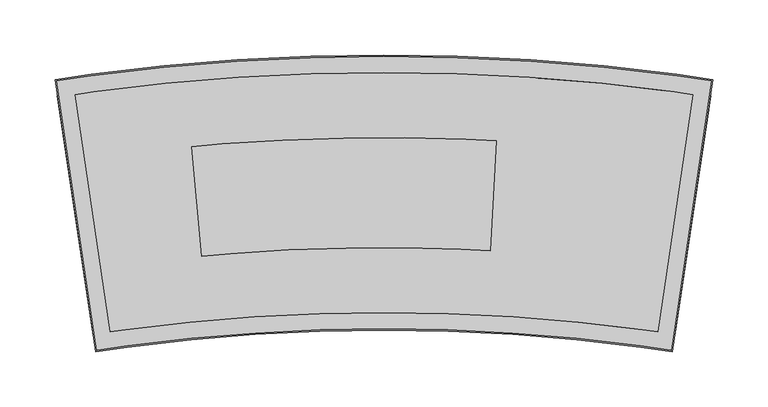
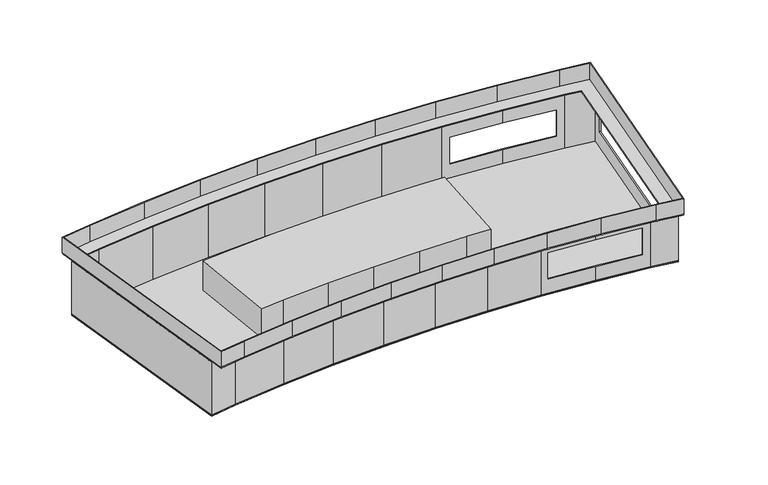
"""IFC4 building model written with IfcOpenShell, lengths in millimetres: proxy geometry, Techno_Конвектор встраиваемый_Usual_KVZ_R-250_85 : KVZ R 250-85_П."""

from ifc_helpers import new_model, si_unit, frame, origin, place, context, project, spatial, polyline, ellipse_curve, outline, extrude, faceted_brep, source, transform, mapped, element, save
from ifc_brep_helpers import plane_surface, cylinder_surface, advanced_brep


def mechanical_equipment_265fb7d5(model_context):
    return source(origin(), model_context, "Body", "SolidModel", [
        extrude(outline(polyline([(601.8314685, 47.3365652), (596.6039803, -52.5267081), (570.3832504, -51.1541459), (517.8849687, -49.9000193), (465.3722481, -50.137903), (412.8874831, -51.867605), (360.473046, -55.0877287), (334.322149, -57.4417016), (325.3568973, 42.1556089), (352.9228862, 44.6369613), (408.1736024, 48.0313342), (463.498452, 49.8546347), (518.85277, 50.1053909), (574.1918679, 48.7834003), (601.8314685, 47.3365652)])), frame((0.0, 0.0, -69.8), z_axis=(0.0, 0.0, 1.0), x_axis=(1.0, 0.0, 0.0)), (0.0, 0.0, 1.0), 35.0),
        extrude(outline(polyline([(796.714919, 88.1589808), (764.1504492, -129.8220168), (735.013227, -125.4691686), (676.4835836, -118.6882483), (617.7622982, -113.8394674), (558.9131357, -110.9280911), (500.0, -109.957281), (441.0868643, -110.9280911), (382.2377018, -113.8394674), (323.5164164, -118.6882483), (264.986773, -125.4691686), (235.8495508, -129.8220168), (203.285081, 88.1589808), (236.0143403, 93.0484481), (301.7595186, 100.6653204), (367.7199646, 106.111859), (433.8240524, 109.3821498), (500.0, 110.4726414), (566.1759476, 109.3821498), (632.2800354, 106.111859), (698.2404814, 100.6653204), (763.9856597, 93.0484481), (796.714919, 88.1589808)])), frame((0.0, 0.0, -85.0), z_axis=(0.0, 0.0, 1.0), x_axis=(1.0, 0.0, 0.0)), (0.0, 0.0, 1.0), 1.2),
        faceted_brep([(203.285081, 88.1589808, -20.5), (203.285081, 88.1589808, -85.0), (235.8495508, -129.8220168, -85.0), (235.8495508, -129.8220168, -20.5), (764.1504492, -129.8220168, -20.5), (764.1504492, -129.8220168, -85.0), (796.714919, 88.1589808, -85.0), (796.714919, 88.1589808, -20.5), (765.6575163, -119.733967, -33.0), (794.8532478, 75.6972722, -33.0), (794.8532478, 75.6972722, -65.0), (765.6575163, -119.733967, -65.0), (204.6492124, 87.1494534, -85.0), (204.6492124, 87.1494534, -20.5), (236.8590781, -128.4578854, -20.5), (236.8590781, -128.4578854, -85.0), (763.1409219, -128.4578854, -85.0), (763.1409219, -128.4578854, -20.5), (795.3507876, 87.1494534, -20.5), (795.3507876, 87.1494534, -85.0), (793.6664185, 75.8745742, -33.0), (764.470687, -119.556665, -33.0), (764.470687, -119.556665, -65.0), (793.6664185, 75.8745742, -65.0), (264.986773, -125.4691686, -85.0), (264.986773, -125.4691686, -20.5), (264.809471, -124.2823392, -20.5), (264.809471, -124.2823392, -85.0), (323.5164164, -118.6882483, -85.0), (323.5164164, -118.6882483, -20.5), (323.3783148, -117.4962215, -20.5), (323.3783148, -117.4962215, -85.0), (382.2377018, -113.8394674, -85.0), (382.2377018, -113.8394674, -20.5), (382.1389505, -112.6435375, -20.5), (382.1389505, -112.6435375, -85.0), (441.0868643, -110.9280911, -85.0), (441.0868643, -110.9280911, -20.5), (441.0275706, -109.7295569, -20.5), (441.0275706, -109.7295569, -85.0), (500.0, -109.957281, -85.0), (500.0, -109.957281, -20.5), (499.9802283, -108.7574439, -20.5), (499.9802283, -108.7574439, -85.0), (558.9131357, -110.9280911, -85.0), (558.9131357, -110.9280911, -20.5), (558.9329075, -109.728254, -20.5), (558.9329075, -109.728254, -85.0), (617.7622982, -113.8394674, -85.0), (617.7622982, -113.8394674, -20.5), (617.8215919, -112.6409332, -20.5), (617.8215919, -112.6409332, -85.0), (676.4835836, -118.6882483, -85.0), (676.4835836, -118.6882483, -67.0), (624.8688281, -114.4262735, -67.0), (624.8688281, -114.4262735, -35.0), (676.4835836, -118.6882483, -35.0), (676.4835836, -118.6882483, -20.5), (676.5823349, -117.4923185, -20.5), (676.5823349, -117.4923185, -35.0), (624.9526421, -113.2291102, -35.0), (624.9526421, -113.2291102, -67.0), (676.5823349, -117.4923185, -67.0), (676.5823349, -117.4923185, -85.0), (735.013227, -125.4691686, -85.0), (735.013227, -125.4691686, -20.5), (727.2128336, -124.5654582, -35.0), (727.2128336, -124.5654582, -67.0), (735.1513286, -124.2771418, -20.5), (735.1513286, -124.2771418, -85.0), (727.3653424, -123.3751006, -67.0), (727.3653424, -123.3751006, -35.0), (763.9856597, 93.0484481, -85.0), (763.9856597, 93.0484481, -20.5), (763.8083577, 91.8616187, -20.5), (763.8083577, 91.8616187, -85.0), (698.2404814, 100.6653204, -85.0), (698.2404814, 100.6653204, -67.0), (755.2236337, 94.0635679, -67.0), (755.2236337, 94.0635679, -35.0), (698.2404814, 100.6653204, -35.0), (698.2404814, 100.6653204, -20.5), (698.1023797, 99.4732936, -20.5), (698.1023797, 99.4732936, -35.0), (755.0711248, 92.8732103, -35.0), (755.0711248, 92.8732103, -67.0), (698.1023797, 99.4732936, -67.0), (698.1023797, 99.4732936, -85.0), (632.2800354, 106.111859, -85.0), (632.2800354, 106.111859, -20.5), (640.2626584, 105.4527115, -35.0), (640.2626584, 105.4527115, -67.0), (632.1812841, 104.9159292, -20.5), (632.1812841, 104.9159292, -85.0), (640.1788444, 104.2555483, -67.0), (640.1788444, 104.2555483, -35.0), (566.1759476, 109.3821498, -85.0), (566.1759476, 109.3821498, -20.5), (566.1166539, 108.1836156, -20.5), (566.1166539, 108.1836156, -85.0), (500.0, 110.4726414, -85.0), (500.0, 110.4726414, -20.5), (499.9802283, 109.2728043, -20.5), (499.9802283, 109.2728043, -85.0), (433.8240524, 109.3821498, -85.0), (433.8240524, 109.3821498, -20.5), (433.8438241, 108.1823127, -20.5), (433.8438241, 108.1823127, -85.0), (367.7199646, 106.111859, -85.0), (367.7199646, 106.111859, -20.5), (367.7792583, 104.9133248, -20.5), (367.7792583, 104.9133248, -85.0), (301.7595186, 100.6653204, -85.0), (301.7595186, 100.6653204, -20.5), (301.8582699, 99.4693905, -20.5), (301.8582699, 99.4693905, -85.0), (236.0143403, 93.0484481, -85.0), (236.0143403, 93.0484481, -20.5), (236.1524419, 91.8564213, -20.5), (236.1524419, 91.8564213, -85.0)], [[[0, 1, 2, 3]], [[4, 5, 6, 7], [8, 9, 10, 11]], [[12, 13, 14, 15]], [[16, 17, 18, 19], [20, 21, 22, 23]], [[3, 2, 24, 25]], [[15, 14, 26, 27]], [[25, 24, 28, 29]], [[27, 26, 30, 31]], [[29, 28, 32, 33]], [[31, 30, 34, 35]], [[33, 32, 36, 37]], [[35, 34, 38, 39]], [[37, 36, 40, 41]], [[39, 38, 42, 43]], [[41, 40, 44, 45]], [[43, 42, 46, 47]], [[45, 44, 48, 49]], [[47, 46, 50, 51]], [[49, 48, 52, 53, 54, 55, 56, 57]], [[51, 50, 58, 59, 60, 61, 62, 63]], [[52, 64, 65, 57, 56, 66, 67, 53]], [[58, 68, 69, 63, 62, 70, 71, 59]], [[5, 4, 65, 64]], [[17, 16, 69, 68]], [[7, 6, 72, 73]], [[19, 18, 74, 75]], [[73, 72, 76, 77, 78, 79, 80, 81]], [[75, 74, 82, 83, 84, 85, 86, 87]], [[76, 88, 89, 81, 80, 90, 91, 77]], [[82, 92, 93, 87, 86, 94, 95, 83]], [[89, 88, 96, 97]], [[93, 92, 98, 99]], [[97, 96, 100, 101]], [[99, 98, 102, 103]], [[101, 100, 104, 105]], [[103, 102, 106, 107]], [[105, 104, 108, 109]], [[107, 106, 110, 111]], [[109, 108, 112, 113]], [[111, 110, 114, 115]], [[113, 112, 116, 117]], [[115, 114, 118, 119]], [[1, 0, 117, 116]], [[13, 12, 119, 118]], [[0, 3, 25, 29, 33, 37, 41, 45, 49, 57, 65, 4, 7, 73, 81, 89, 97, 101, 105, 109, 113, 117], [14, 13, 118, 114, 110, 106, 102, 98, 92, 82, 74, 18, 17, 68, 58, 50, 46, 42, 38, 34, 30, 26]], [[2, 1, 116, 112, 108, 104, 100, 96, 88, 76, 72, 6, 5, 64, 52, 48, 44, 40, 36, 32, 28, 24], [12, 15, 27, 31, 35, 39, 43, 47, 51, 63, 69, 16, 19, 75, 87, 93, 99, 103, 107, 111, 115, 119]], [[20, 9, 8, 21]], [[21, 8, 11, 22]], [[22, 11, 10, 23]], [[9, 20, 23, 10]], [[66, 71, 70, 67]], [[84, 79, 78, 85]], [[67, 70, 62, 61, 54, 53]], [[85, 78, 77, 91, 94, 86]], [[71, 66, 56, 55, 60, 59]], [[79, 84, 83, 95, 90, 80]], [[54, 61, 60, 55]], [[94, 91, 90, 95]]]),
        advanced_brep(
        [(780.7132251, 89.3361782, -19.3), (780.7132251, 89.3361782, -20.5), (748.5033594, -126.2711606, -20.5), (748.5033594, -126.2711606, -19.3), (797.5375124, 101.7870158, 0.0), (797.5375124, 101.7870158, -19.3), (760.954197, -143.0954479, -19.3), (760.954197, -143.0954479, 0.0), (798.9016438, 102.7965432, -18.5), (798.9016438, 102.7965432, 0.0), (761.9637244, -144.4595793, 0.0), (761.9637244, -144.4595793, -18.5), (251.4966406, -126.2711606, -19.3), (251.4966406, -126.2711606, -20.5), (219.2867749, 89.3361782, -20.5), (219.2867749, 89.3361782, -19.3), (239.045803, -143.0954479, 0.0), (239.045803, -143.0954479, -19.3), (202.4624876, 101.7870158, -19.3), (202.4624876, 101.7870158, 0.0), (238.0362756, -144.4595793, -18.5), (238.0362756, -144.4595793, 0.0), (201.0983562, 102.7965432, 0.0), (201.0983562, 102.7965432, -18.5), (796.6280915, 101.1139976, -20.5), (760.2811788, -142.1860269, -20.5), (239.7188212, -142.1860269, -20.5), (203.3719085, 101.1139976, -20.5), (234.068823, 107.7220449, -18.5), (234.3317308, 105.7391264, -20.5), (236.1720849, 91.858697, -20.5), (236.1720849, 91.858697, -19.3), (234.2265677, 106.5322938, -19.3), (234.2265677, 106.5322938, 0.0), (234.068823, 107.7220449, 0.0), (300.2985291, 115.3950518, -18.5), (300.4959601, 113.4045476, -20.5), (301.8779772, 99.4710178, -20.5), (301.8779772, 99.4710178, -19.3), (300.4169877, 114.2007493, -19.3), (300.4169877, 114.2007493, 0.0), (300.2985291, 115.3950518, 0.0), (733.0677097, -140.1427654, -18.5), (733.3306175, -138.1598469, -20.5), (735.1709716, -124.2794175, -20.5), (735.1709716, -124.2794175, -19.3), (733.2254544, -138.9530143, -19.3), (733.2254544, -138.9530143, 0.0), (733.0677097, -140.1427654, 0.0), (675.0225941, -133.4179798, -18.5), (675.2200251, -131.4274755, -20.5), (676.6020422, -117.4939458, -20.5), (676.6020422, -117.4939458, -19.3), (675.1410527, -132.2236772, -19.3), (675.1410527, -132.2236772, 0.0), (675.0225941, -133.4179798, 0.0), (366.7450893, 120.8817303, -18.5), (366.8768293, 118.8858018, -20.5), (367.7990086, 104.9143019, -20.5), (367.7990086, 104.9143019, -19.3), (366.8241333, 119.6841732, -19.3), (366.8241333, 119.6841732, 0.0), (366.7450893, 120.8817303, 0.0), (616.7874229, -128.6093387, -18.5), (616.9191628, -126.6134101, -20.5), (617.8413421, -112.6419103, -20.5), (617.8413421, -112.6419103, -19.3), (616.8664669, -127.4117815, -19.3), (616.8664669, -127.4117815, 0.0), (616.7874229, -128.6093387, 0.0), (433.3363499, 124.1761224, -18.5), (433.4022557, 122.1769369, -20.5), (433.8635958, 108.1826385, -20.5), (433.8635958, 108.1826385, -19.3), (433.3758934, 122.9766111, -19.3), (433.3758934, 122.9766111, 0.0), (433.3363499, 124.1761224, 0.0), (500.0, 125.2746507, -18.5), (500.0, 123.2743792, -20.5), (500.0, 109.2724785, -20.5), (500.0, 109.2724785, -19.3), (500.0, 124.0744878, -19.3), (500.0, 124.0744878, 0.0), (500.0, 125.2746507, 0.0), (558.4254333, -125.7220638, -18.5), (558.491339, -123.7228783, -20.5), (558.9526792, -109.7285798, -20.5), (558.9526792, -109.7285798, -19.3), (558.4649767, -124.5225525, -19.3), (558.4649767, -124.5225525, 0.0), (558.4254333, -125.7220638, 0.0), (500.0, -124.7592903, -18.5), (500.0, -122.7590188, -20.5), (500.0, -108.7571181, -20.5), (500.0, -108.7571181, -19.3), (500.0, -123.5591274, -19.3), (500.0, -123.5591274, 0.0), (500.0, -124.7592903, 0.0), (566.6636501, 124.1761224, -18.5), (566.5977443, 122.1769369, -20.5), (566.1364042, 108.1826385, -20.5), (566.1364042, 108.1826385, -19.3), (566.6241066, 122.9766111, -19.3), (566.6241066, 122.9766111, 0.0), (566.6636501, 124.1761224, 0.0), (633.2549107, 120.8817303, -18.5), (633.1231707, 118.8858018, -20.5), (632.2009914, 104.9143019, -20.5), (632.2009914, 104.9143019, -19.3), (633.1758667, 119.6841732, -19.3), (633.1758667, 119.6841732, 0.0), (633.2549107, 120.8817303, 0.0), (699.7014709, 115.3950518, -18.5), (699.5040399, 113.4045476, -20.5), (698.1220228, 99.4710178, -20.5), (698.1220228, 99.4710178, -19.3), (699.5830123, 114.2007493, -19.3), (699.5830123, 114.2007493, 0.0), (699.7014709, 115.3950518, 0.0), (765.931177, 107.7220449, -18.5), (765.6682692, 105.7391264, -20.5), (763.8279151, 91.858697, -20.5), (763.8279151, 91.858697, -19.3), (765.7734323, 106.5322938, -19.3), (765.7734323, 106.5322938, 0.0), (765.931177, 107.7220449, 0.0), (441.5745667, -125.7220638, -18.5), (441.508661, -123.7228783, -20.5), (441.0473208, -109.7285798, -20.5), (441.0473208, -109.7285798, -19.3), (441.5350233, -124.5225525, -19.3), (441.5350233, -124.5225525, 0.0), (441.5745667, -125.7220638, 0.0), (383.2125771, -128.6093387, -18.5), (383.0808372, -126.6134101, -20.5), (382.1586579, -112.6419103, -20.5), (382.1586579, -112.6419103, -19.3), (383.1335331, -127.4117815, -19.3), (383.1335331, -127.4117815, 0.0), (383.2125771, -128.6093387, 0.0), (324.9774059, -133.4179798, -18.5), (324.7799749, -131.4274755, -20.5), (323.3979578, -117.4939458, -20.5), (323.3979578, -117.4939458, -19.3), (324.8589473, -132.2236772, -19.3), (324.8589473, -132.2236772, 0.0), (324.9774059, -133.4179798, 0.0), (266.9322903, -140.1427654, -18.5), (266.6693825, -138.1598469, -20.5), (264.8290284, -124.2794175, -20.5), (264.8290284, -124.2794175, -19.3), (266.7745456, -138.9530143, -19.3), (266.7745456, -138.9530143, 0.0), (266.9322903, -140.1427654, 0.0)],
        [
            (0, 1),
            (1, 2),
            (2, 3),
            (3, 0),
            (4, 5),
            (5, 6),
            (6, 7),
            (7, 4),
            (8, 9),
            (9, 10),
            (10, 11),
            (11, 8),
            (12, 13),
            (13, 14),
            (14, 15),
            (15, 12),
            (16, 17),
            (17, 18),
            (18, 19),
            (19, 16),
            (20, 21),
            (21, 22),
            (22, 23),
            (23, 20),
            (24, 8, ellipse_curve(frame((796.6280915, 101.1139976, -18.5), z_axis=(0.5948697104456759, -0.8038221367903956, 0.0), x_axis=(0.8038221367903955, 0.5948697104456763, 0.0)), 2.8284271, 2.0)),
            (11, 25, ellipse_curve(frame((760.2811788, -142.1860269, -18.5), z_axis=(0.8038221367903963, 0.5948697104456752, 0.0), x_axis=(-0.594869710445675, 0.8038221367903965, 0.0)), 2.8284271, 2.0)),
            (25, 24),
            (26, 20, ellipse_curve(frame((239.7188212, -142.1860269, -18.5), z_axis=(-0.8038221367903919, 0.5948697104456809, 0.0), x_axis=(-0.5948697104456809, -0.803822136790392, 0.0)), 2.8284271, 2.0)),
            (23, 27, ellipse_curve(frame((203.3719085, 101.1139976, -18.5), z_axis=(-0.5948697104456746, -0.8038221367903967, 0.0), x_axis=(0.8038221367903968, -0.5948697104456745, 0.0)), 2.8284271, 2.0)),
            (27, 26),
            (23, 28),
            (28, 29, ellipse_curve(frame((234.3317308, 105.7391264, -18.5), z_axis=(-0.9913246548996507, -0.13143602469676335, 0.0), x_axis=(0.1314360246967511, -0.9913246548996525, 0.0)), 2.0002715, 2.0)),
            (29, 27),
            (14, 30),
            (30, 31),
            (31, 15),
            (18, 32),
            (32, 33),
            (33, 19),
            (22, 34),
            (34, 28),
            (28, 35),
            (35, 36, ellipse_curve(frame((300.4959601, 113.4045476, -18.5), z_axis=(-0.9951170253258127, -0.09870210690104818, 0.0), x_axis=(0.09870210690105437, -0.9951170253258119, 0.0)), 2.0002715, 2.0)),
            (36, 29),
            (30, 37),
            (37, 38),
            (38, 31),
            (32, 39),
            (39, 40),
            (40, 33),
            (34, 41),
            (41, 35),
            (11, 42),
            (42, 43, ellipse_curve(frame((733.3306175, -138.1598469, -18.5), z_axis=(0.9913246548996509, -0.13143602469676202, 0.0), x_axis=(-0.13143602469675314, -0.9913246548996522, 0.0)), 2.0002715, 2.0)),
            (43, 25),
            (2, 44),
            (44, 45),
            (45, 3),
            (6, 46),
            (46, 47),
            (47, 7),
            (10, 48),
            (48, 42),
            (42, 49),
            (49, 50, ellipse_curve(frame((675.2200251, -131.4274755, -18.5), z_axis=(0.9951170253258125, -0.09870210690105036, 0.0), x_axis=(-0.09870210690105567, -0.9951170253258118, 0.0)), 2.0002715, 2.0)),
            (50, 43),
            (44, 51),
            (51, 52),
            (52, 45),
            (46, 53),
            (53, 54),
            (54, 47),
            (48, 55),
            (55, 49),
            (35, 56),
            (56, 57, ellipse_curve(frame((366.8768293, 118.8858018, -18.5), z_axis=(-0.9978288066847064, -0.06586100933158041, 0.0), x_axis=(0.06586100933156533, -0.9978288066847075, 0.0)), 2.0002715, 2.0)),
            (57, 36),
            (37, 58),
            (58, 59),
            (59, 38),
            (39, 60),
            (60, 61),
            (61, 40),
            (41, 62),
            (62, 56),
            (49, 63),
            (63, 64, ellipse_curve(frame((616.9191628, -126.6134101, -18.5), z_axis=(0.9978288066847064, -0.06586100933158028, 0.0), x_axis=(-0.06586100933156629, -0.9978288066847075, 0.0)), 2.0002715, 2.0)),
            (64, 50),
            (51, 65),
            (65, 66),
            (66, 52),
            (53, 67),
            (67, 68),
            (68, 54),
            (55, 69),
            (69, 63),
            (56, 70),
            (70, 71, ellipse_curve(frame((433.4022557, 122.1769369, -18.5), z_axis=(-0.9994570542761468, -0.03294839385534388, 0.0), x_axis=(0.03294839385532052, -0.999457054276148, 0.0)), 2.0002715, 2.0)),
            (71, 57),
            (58, 72),
            (72, 73),
            (73, 59),
            (60, 74),
            (74, 75),
            (75, 61),
            (62, 76),
            (76, 70),
            (70, 77),
            (77, 78, ellipse_curve(frame((500.0, 123.2743792, -18.5), z_axis=(-0.9999999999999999, 0.0, 0.0), x_axis=(0.0, -1.0, 0.0)), 2.0002715, 2.0)),
            (78, 71),
            (72, 79),
            (79, 80),
            (80, 73),
            (74, 81),
            (81, 82),
            (82, 75),
            (76, 83),
            (83, 77),
            (63, 84),
            (84, 85, ellipse_curve(frame((558.491339, -123.7228783, -18.5), z_axis=(0.9994570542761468, -0.032948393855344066, 0.0), x_axis=(-0.03294839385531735, -0.999457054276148, 0.0)), 2.0002715, 2.0)),
            (85, 64),
            (65, 86),
            (86, 87),
            (87, 66),
            (67, 88),
            (88, 89),
            (89, 68),
            (69, 90),
            (90, 84),
            (84, 91),
            (91, 92, ellipse_curve(frame((500.0, -122.7590188, -18.5), z_axis=(0.9999999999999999, 0.0, 0.0), x_axis=(0.0, -1.0, 0.0)), 2.0002715, 2.0)),
            (92, 85),
            (86, 93),
            (93, 94),
            (94, 87),
            (88, 95),
            (95, 96),
            (96, 89),
            (90, 97),
            (97, 91),
            (77, 98),
            (98, 99, ellipse_curve(frame((566.5977443, 122.1769369, -18.5), z_axis=(-0.9994570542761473, 0.03294839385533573, 0.0), x_axis=(-0.03294839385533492, -0.9994570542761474, 0.0)), 2.0002715, 2.0)),
            (99, 78),
            (79, 100),
            (100, 101),
            (101, 80),
            (81, 102),
            (102, 103),
            (103, 82),
            (83, 104),
            (104, 98),
            (98, 105),
            (105, 106, ellipse_curve(frame((633.1231707, 118.8858018, -18.5), z_axis=(-0.9978288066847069, 0.06586100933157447, 0.0), x_axis=(-0.06586100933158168, -0.9978288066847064, 0.0)), 2.0002715, 2.0)),
            (106, 99),
            (100, 107),
            (107, 108),
            (108, 101),
            (102, 109),
            (109, 110),
            (110, 103),
            (104, 111),
            (111, 105),
            (105, 112),
            (112, 113, ellipse_curve(frame((699.5040399, 113.4045476, -18.5), z_axis=(-0.9951170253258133, 0.09870210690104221, 0.0), x_axis=(-0.09870210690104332, -0.9951170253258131, 0.0)), 2.0002715, 2.0)),
            (113, 106),
            (107, 114),
            (114, 115),
            (115, 108),
            (109, 116),
            (116, 117),
            (117, 110),
            (111, 118),
            (118, 112),
            (112, 119),
            (119, 120, ellipse_curve(frame((765.6682692, 105.7391264, -18.5), z_axis=(-0.991324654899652, 0.13143602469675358, 0.0), x_axis=(-0.13143602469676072, -0.9913246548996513, 0.0)), 2.0002715, 2.0)),
            (120, 113),
            (114, 121),
            (121, 122),
            (122, 115),
            (116, 123),
            (123, 124),
            (124, 117),
            (118, 125),
            (125, 119),
            (119, 8),
            (24, 120),
            (121, 1),
            (0, 122),
            (123, 5),
            (4, 124),
            (125, 9),
            (91, 126),
            (126, 127, ellipse_curve(frame((441.508661, -123.7228783, -18.5), z_axis=(0.9994570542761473, 0.03294839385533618, 0.0), x_axis=(0.03294839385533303, -0.9994570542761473, 0.0)), 2.0002715, 2.0)),
            (127, 92),
            (93, 128),
            (128, 129),
            (129, 94),
            (95, 130),
            (130, 131),
            (131, 96),
            (97, 132),
            (132, 126),
            (126, 133),
            (133, 134, ellipse_curve(frame((383.0808372, -126.6134101, -18.5), z_axis=(0.9978288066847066, 0.06586100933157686, 0.0), x_axis=(0.06586100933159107, -0.9978288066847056, 0.0)), 2.0002715, 2.0)),
            (134, 127),
            (128, 135),
            (135, 136),
            (136, 129),
            (130, 137),
            (137, 138),
            (138, 131),
            (132, 139),
            (139, 133),
            (133, 140),
            (140, 141, ellipse_curve(frame((324.7799749, -131.4274755, -18.5), z_axis=(0.9951170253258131, 0.09870210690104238, 0.0), x_axis=(0.09870210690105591, -0.9951170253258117, 0.0)), 2.0002715, 2.0)),
            (141, 134),
            (135, 142),
            (142, 143),
            (143, 136),
            (137, 144),
            (144, 145),
            (145, 138),
            (139, 146),
            (146, 140),
            (140, 147),
            (147, 148, ellipse_curve(frame((266.6693825, -138.1598469, -18.5), z_axis=(0.9913246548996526, 0.13143602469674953, 0.0), x_axis=(0.13143602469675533, -0.9913246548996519, 0.0)), 2.0002715, 2.0)),
            (148, 141),
            (142, 149),
            (149, 150),
            (150, 143),
            (144, 151),
            (151, 152),
            (152, 145),
            (146, 153),
            (153, 147),
            (147, 20),
            (26, 148),
            (13, 149),
            (12, 150),
            (17, 151),
            (16, 152),
            (21, 153),
        ],
        [
            plane_surface(frame((780.7132251, 89.3361782, -20.5), z_axis=(-0.9890244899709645, 0.1477516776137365, 0.0), x_axis=(-0.1477516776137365, -0.9890244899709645, 0.0))),
            plane_surface(frame((797.5375124, 101.7870158, -19.3), z_axis=(-0.9890244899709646, 0.14775167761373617, 0.0), x_axis=(-0.14775167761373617, -0.9890244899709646, 0.0))),
            plane_surface(frame((798.9016438, 102.7965432, 0.0), z_axis=(0.9890244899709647, -0.1477516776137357, 0.0), x_axis=(-0.1477516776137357, -0.9890244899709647, 0.0))),
            plane_surface(frame((251.4966406, -126.2711606, -20.5), z_axis=(0.9890244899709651, 0.14775167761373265, 0.0), x_axis=(-0.14775167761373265, 0.9890244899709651, 0.0))),
            plane_surface(frame((239.045803, -143.0954479, -19.3), z_axis=(0.9890244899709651, 0.14775167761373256, 0.0), x_axis=(-0.14775167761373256, 0.9890244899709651, 0.0))),
            plane_surface(frame((238.0362756, -144.4595793, 0.0), z_axis=(-0.9890244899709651, -0.14775167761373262, 0.0), x_axis=(-0.14775167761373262, 0.9890244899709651, 0.0))),
            cylinder_surface(frame((796.9235948, 103.0920466, -18.5), z_axis=(0.14775167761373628, 0.9890244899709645, 0.0), x_axis=(0.9890244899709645, -0.14775167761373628, 0.0)), 2.0),
            cylinder_surface(frame((240.0143246, -144.1640759, -18.5), z_axis=(0.14775167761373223, -0.9890244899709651, 0.0), x_axis=(-0.9890244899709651, -0.14775167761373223, 0.0)), 2.0),
            cylinder_surface(frame((201.3938595, 100.8184942, -18.5), z_axis=(-0.9890244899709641, -0.14775167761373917, 0.0), x_axis=(-0.14775167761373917, 0.9890244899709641, 0.0)), 2.0),
            plane_surface(frame((219.2867749, 89.3361782, -20.5), z_axis=(0.1477516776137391, -0.9890244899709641, 0.0), x_axis=(0.9890244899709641, 0.1477516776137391, 0.0))),
            plane_surface(frame((202.4624876, 101.7870158, -19.3), z_axis=(0.14775167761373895, -0.9890244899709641, 0.0), x_axis=(0.9890244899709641, 0.14775167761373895, 0.0))),
            plane_surface(frame((201.0983562, 102.7965432, 0.0), z_axis=(-0.14775167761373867, 0.9890244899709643, 0.0), x_axis=(0.9890244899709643, 0.14775167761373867, 0.0))),
            cylinder_surface(frame((234.2989924, 105.7353335, -18.5), z_axis=(-0.9933556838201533, -0.11508468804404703, 0.0), x_axis=(-0.11508468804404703, 0.9933556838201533, 0.0)), 2.0),
            plane_surface(frame((236.1720849, 91.858697, -20.5), z_axis=(0.11508468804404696, -0.9933556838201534, 0.0), x_axis=(0.9933556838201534, 0.11508468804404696, 0.0))),
            plane_surface(frame((234.2265677, 106.5322938, -19.3), z_axis=(0.11508468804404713, -0.9933556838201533, 0.0), x_axis=(0.9933556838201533, 0.11508468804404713, 0.0))),
            plane_surface(frame((234.068823, 107.7220449, 0.0), z_axis=(-0.11508468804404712, 0.9933556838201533, 0.0), x_axis=(0.9933556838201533, 0.11508468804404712, 0.0))),
            cylinder_surface(frame((762.2592278, -142.4815303, -18.5), z_axis=(0.989024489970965, -0.14775167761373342, 0.0), x_axis=(-0.14775167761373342, -0.989024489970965, 0.0)), 2.0),
            plane_surface(frame((748.5033594, -126.2711606, -20.5), z_axis=(0.147751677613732, 0.9890244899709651, 0.0), x_axis=(-0.9890244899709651, 0.147751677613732, 0.0))),
            plane_surface(frame((760.954197, -143.0954479, -19.3), z_axis=(0.14775167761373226, 0.9890244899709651, 0.0), x_axis=(-0.9890244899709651, 0.14775167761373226, 0.0))),
            plane_surface(frame((761.9637244, -144.4595793, 0.0), z_axis=(-0.1477516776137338, -0.9890244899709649, 0.0), x_axis=(-0.9890244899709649, 0.1477516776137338, 0.0))),
            cylinder_surface(frame((733.2978791, -138.156054, -18.5), z_axis=(0.993355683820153, -0.11508468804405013, 0.0), x_axis=(-0.11508468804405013, -0.993355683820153, 0.0)), 2.0),
            plane_surface(frame((735.1709716, -124.2794175, -20.5), z_axis=(0.11508468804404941, 0.993355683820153, 0.0), x_axis=(-0.993355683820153, 0.11508468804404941, 0.0))),
            plane_surface(frame((733.2254544, -138.9530143, -19.3), z_axis=(0.11508468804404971, 0.993355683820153, 0.0), x_axis=(-0.993355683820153, 0.11508468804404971, 0.0))),
            plane_surface(frame((733.0677097, -140.1427654, 0.0), z_axis=(-0.11508468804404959, -0.993355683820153, 0.0), x_axis=(-0.993355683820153, 0.11508468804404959, 0.0))),
            cylinder_surface(frame((300.4631146, 113.4018354, -18.5), z_axis=(-0.9966082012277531, -0.0822927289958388, 0.0), x_axis=(-0.0822927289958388, 0.9966082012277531, 0.0)), 2.0),
            plane_surface(frame((301.8779772, 99.4710178, -20.5), z_axis=(0.08229272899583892, -0.9966082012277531, 0.0), x_axis=(0.9966082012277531, 0.08229272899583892, 0.0))),
            plane_surface(frame((300.4169877, 114.2007493, -19.3), z_axis=(0.08229272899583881, -0.9966082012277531, 0.0), x_axis=(0.9966082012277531, 0.08229272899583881, 0.0))),
            plane_surface(frame((300.2985291, 115.3950518, 0.0), z_axis=(-0.08229272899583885, 0.9966082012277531, 0.0), x_axis=(0.9966082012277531, 0.08229272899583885, 0.0))),
            cylinder_surface(frame((675.1871795, -131.4247634, -18.5), z_axis=(0.996608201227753, -0.0822927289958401, 0.0), x_axis=(-0.0822927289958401, -0.996608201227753, 0.0)), 2.0),
            plane_surface(frame((676.6020422, -117.4939458, -20.5), z_axis=(0.0822927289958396, 0.996608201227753, 0.0), x_axis=(-0.996608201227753, 0.0822927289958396, 0.0))),
            plane_surface(frame((675.1410527, -132.2236772, -19.3), z_axis=(0.08229272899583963, 0.996608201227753, 0.0), x_axis=(-0.996608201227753, 0.08229272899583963, 0.0))),
            plane_surface(frame((675.0225941, -133.4179798, 0.0), z_axis=(-0.08229272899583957, -0.996608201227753, 0.0), x_axis=(-0.996608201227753, 0.08229272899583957, 0.0))),
            cylinder_surface(frame((366.8439122, 118.8841733, -18.5), z_axis=(-0.9987785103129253, -0.049411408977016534, 0.0), x_axis=(-0.049411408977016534, 0.9987785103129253, 0.0)), 2.0),
            plane_surface(frame((367.7990086, 104.9143019, -20.5), z_axis=(0.049411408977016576, -0.9987785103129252, 0.0), x_axis=(0.9987785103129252, 0.049411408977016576, 0.0))),
            plane_surface(frame((366.8241333, 119.6841732, -19.3), z_axis=(0.04941140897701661, -0.9987785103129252, 0.0), x_axis=(0.9987785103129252, 0.04941140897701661, 0.0))),
            plane_surface(frame((366.7450893, 120.8817303, 0.0), z_axis=(-0.04941140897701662, 0.9987785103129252, 0.0), x_axis=(0.9987785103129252, 0.04941140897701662, 0.0))),
            cylinder_surface(frame((433.3693028, 122.1763939, -18.5), z_axis=(-0.9998642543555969, -0.016476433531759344, 0.0), x_axis=(-0.016476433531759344, 0.9998642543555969, 0.0)), 2.0),
            plane_surface(frame((433.8635958, 108.1826385, -20.5), z_axis=(0.01647643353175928, -0.9998642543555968, 0.0), x_axis=(0.9998642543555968, 0.01647643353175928, 0.0))),
            plane_surface(frame((433.3758934, 122.9766111, -19.3), z_axis=(0.016476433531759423, -0.9998642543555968, 0.0), x_axis=(0.9998642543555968, 0.016476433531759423, 0.0))),
            plane_surface(frame((433.3363499, 124.1761224, 0.0), z_axis=(-0.016476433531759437, 0.9998642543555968, 0.0), x_axis=(0.9998642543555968, 0.016476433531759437, 0.0))),
            cylinder_surface(frame((616.8862457, -126.6117817, -18.5), z_axis=(0.9987785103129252, -0.049411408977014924, 0.0), x_axis=(-0.049411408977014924, -0.9987785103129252, 0.0)), 2.0),
            plane_surface(frame((617.8413421, -112.6419103, -20.5), z_axis=(0.04941140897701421, 0.9987785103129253, 0.0), x_axis=(-0.9987785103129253, 0.04941140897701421, 0.0))),
            plane_surface(frame((616.8664669, -127.4117815, -19.3), z_axis=(0.04941140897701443, 0.9987785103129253, 0.0), x_axis=(-0.9987785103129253, 0.04941140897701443, 0.0))),
            plane_surface(frame((616.7874229, -128.6093387, 0.0), z_axis=(-0.049411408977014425, -0.9987785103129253, 0.0), x_axis=(-0.9987785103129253, 0.049411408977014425, 0.0))),
            cylinder_surface(frame((558.4583862, -123.7223352, -18.5), z_axis=(0.9998642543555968, -0.01647643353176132, 0.0), x_axis=(-0.01647643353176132, -0.9998642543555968, 0.0)), 2.0),
            plane_surface(frame((558.9526792, -109.7285798, -20.5), z_axis=(0.01647643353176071, 0.9998642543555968, 0.0), x_axis=(-0.9998642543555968, 0.01647643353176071, 0.0))),
            plane_surface(frame((558.4649767, -124.5225525, -19.3), z_axis=(0.016476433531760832, 0.9998642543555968, 0.0), x_axis=(-0.9998642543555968, 0.016476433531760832, 0.0))),
            plane_surface(frame((558.4254333, -125.7220638, 0.0), z_axis=(-0.016476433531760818, -0.9998642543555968, 0.0), x_axis=(-0.9998642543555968, 0.016476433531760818, 0.0))),
            cylinder_surface(frame((499.9670471, 123.2749222, -18.5), z_axis=(-0.9998642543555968, 0.016476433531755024, 0.0), x_axis=(0.016476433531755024, 0.9998642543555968, 0.0)), 2.0),
            plane_surface(frame((500.0, 109.2724785, -20.5), z_axis=(-0.01647643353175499, -0.9998642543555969, 0.0), x_axis=(0.9998642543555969, -0.01647643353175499, 0.0))),
            plane_surface(frame((500.0, 124.0744878, -19.3), z_axis=(-0.01647643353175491, -0.9998642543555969, 0.0), x_axis=(0.9998642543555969, -0.01647643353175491, 0.0))),
            plane_surface(frame((500.0, 125.2746507, 0.0), z_axis=(0.016476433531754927, 0.9998642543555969, 0.0), x_axis=(0.9998642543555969, -0.016476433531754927, 0.0))),
            cylinder_surface(frame((566.5648273, 122.1785654, -18.5), z_axis=(-0.9987785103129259, 0.049411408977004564, 0.0), x_axis=(0.049411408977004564, 0.9987785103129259, 0.0)), 2.0),
            plane_surface(frame((566.1364042, 108.1826385, -20.5), z_axis=(-0.049411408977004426, -0.9987785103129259, 0.0), x_axis=(0.9987785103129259, -0.049411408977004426, 0.0))),
            plane_surface(frame((566.6241066, 122.9766111, -19.3), z_axis=(-0.04941140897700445, -0.9987785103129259, 0.0), x_axis=(0.9987785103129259, -0.04941140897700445, 0.0))),
            plane_surface(frame((566.6636501, 124.1761224, 0.0), z_axis=(0.04941140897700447, 0.9987785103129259, 0.0), x_axis=(0.9987785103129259, -0.04941140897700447, 0.0))),
            cylinder_surface(frame((633.0903252, 118.8885139, -18.5), z_axis=(-0.9966082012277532, 0.08229272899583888, 0.0), x_axis=(0.08229272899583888, 0.9966082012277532, 0.0)), 2.0),
            plane_surface(frame((632.2009914, 104.9143019, -20.5), z_axis=(-0.08229272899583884, -0.9966082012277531, 0.0), x_axis=(0.9966082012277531, -0.08229272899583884, 0.0))),
            plane_surface(frame((633.1758667, 119.6841732, -19.3), z_axis=(-0.08229272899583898, -0.9966082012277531, 0.0), x_axis=(0.9966082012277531, -0.08229272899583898, 0.0))),
            plane_surface(frame((633.2549107, 120.8817303, 0.0), z_axis=(0.08229272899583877, 0.9966082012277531, 0.0), x_axis=(0.9966082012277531, -0.08229272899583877, 0.0))),
            cylinder_surface(frame((699.4713015, 113.4083405, -18.5), z_axis=(-0.9933556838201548, 0.11508468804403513, 0.0), x_axis=(0.11508468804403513, 0.9933556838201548, 0.0)), 2.0),
            plane_surface(frame((698.1220228, 99.4710178, -20.5), z_axis=(-0.11508468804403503, -0.9933556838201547, 0.0), x_axis=(0.9933556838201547, -0.11508468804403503, 0.0))),
            plane_surface(frame((699.5830123, 114.2007493, -19.3), z_axis=(-0.11508468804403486, -0.9933556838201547, 0.0), x_axis=(0.9933556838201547, -0.11508468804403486, 0.0))),
            plane_surface(frame((699.7014709, 115.3950518, 0.0), z_axis=(0.115084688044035, 0.9933556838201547, 0.0), x_axis=(0.9933556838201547, -0.115084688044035, 0.0))),
            cylinder_surface(frame((765.6356736, 105.7439959, -18.5), z_axis=(-0.9890244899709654, 0.14775167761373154, 0.0), x_axis=(0.14775167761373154, 0.9890244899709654, 0.0)), 2.0),
            plane_surface(frame((763.8279151, 91.858697, -20.5), z_axis=(-0.14775167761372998, -0.9890244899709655, 0.0), x_axis=(0.9890244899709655, -0.14775167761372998, 0.0))),
            plane_surface(frame((765.7734323, 106.5322938, -19.3), z_axis=(-0.14775167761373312, -0.989024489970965, 0.0), x_axis=(0.989024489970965, -0.14775167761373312, 0.0))),
            plane_surface(frame((765.931177, 107.7220449, 0.0), z_axis=(0.14775167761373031, 0.9890244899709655, 0.0), x_axis=(0.9890244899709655, -0.14775167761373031, 0.0))),
            cylinder_surface(frame((499.9670471, -122.7595618, -18.5), z_axis=(0.9998642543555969, 0.016476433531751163, 0.0), x_axis=(0.016476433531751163, -0.9998642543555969, 0.0)), 2.0),
            plane_surface(frame((500.0, -108.7571181, -20.5), z_axis=(-0.01647643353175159, 0.999864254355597, 0.0), x_axis=(-0.999864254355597, -0.01647643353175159, 0.0))),
            plane_surface(frame((500.0, -123.5591274, -19.3), z_axis=(-0.016476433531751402, 0.9998642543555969, 0.0), x_axis=(-0.9998642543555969, -0.016476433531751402, 0.0))),
            plane_surface(frame((500.0, -124.7592903, 0.0), z_axis=(0.016476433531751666, -0.9998642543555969, 0.0), x_axis=(-0.9998642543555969, -0.016476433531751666, 0.0))),
            cylinder_surface(frame((441.4757439, -123.7245067, -18.5), z_axis=(0.9987785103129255, 0.04941140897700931, 0.0), x_axis=(0.04941140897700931, -0.9987785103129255, 0.0)), 2.0),
            plane_surface(frame((441.0473208, -109.7285798, -20.5), z_axis=(-0.04941140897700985, 0.9987785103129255, 0.0), x_axis=(-0.9987785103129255, -0.04941140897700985, 0.0))),
            plane_surface(frame((441.5350233, -124.5225525, -19.3), z_axis=(-0.04941140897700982, 0.9987785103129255, 0.0), x_axis=(-0.9987785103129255, -0.04941140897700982, 0.0))),
            plane_surface(frame((441.5745667, -125.7220638, 0.0), z_axis=(0.0494114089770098, -0.9987785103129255, 0.0), x_axis=(-0.9987785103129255, -0.0494114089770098, 0.0))),
            cylinder_surface(frame((383.0479916, -126.6161223, -18.5), z_axis=(0.996608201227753, 0.08229272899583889, 0.0), x_axis=(0.08229272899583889, -0.996608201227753, 0.0)), 2.0),
            plane_surface(frame((382.1586579, -112.6419103, -20.5), z_axis=(-0.0822927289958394, 0.9966082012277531, 0.0), x_axis=(-0.9966082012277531, -0.0822927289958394, 0.0))),
            plane_surface(frame((383.1335331, -127.4117815, -19.3), z_axis=(-0.08229272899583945, 0.9966082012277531, 0.0), x_axis=(-0.9966082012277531, -0.08229272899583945, 0.0))),
            plane_surface(frame((383.2125771, -128.6093387, 0.0), z_axis=(0.08229272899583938, -0.996608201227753, 0.0), x_axis=(-0.996608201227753, -0.08229272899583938, 0.0))),
            cylinder_surface(frame((324.7472365, -131.4312684, -18.5), z_axis=(0.9933556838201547, 0.11508468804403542, 0.0), x_axis=(0.11508468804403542, -0.9933556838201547, 0.0)), 2.0),
            plane_surface(frame((323.3979578, -117.4939458, -20.5), z_axis=(-0.11508468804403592, 0.9933556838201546, 0.0), x_axis=(-0.9933556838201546, -0.11508468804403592, 0.0))),
            plane_surface(frame((324.8589473, -132.2236772, -19.3), z_axis=(-0.11508468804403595, 0.9933556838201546, 0.0), x_axis=(-0.9933556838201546, -0.11508468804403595, 0.0))),
            plane_surface(frame((324.9774059, -133.4179798, 0.0), z_axis=(0.11508468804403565, -0.9933556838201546, 0.0), x_axis=(-0.9933556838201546, -0.11508468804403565, 0.0))),
            cylinder_surface(frame((266.6367869, -138.1647164, -18.5), z_axis=(0.9890244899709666, 0.14775167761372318, 0.0), x_axis=(0.14775167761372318, -0.9890244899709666, 0.0)), 2.0),
            plane_surface(frame((266.6693825, -138.1598469, -20.5), z_axis=(0.0, 0.0, -1.0000000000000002), x_axis=(-0.9890244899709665, -0.14775167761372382, 0.0))),
            plane_surface(frame((264.8290284, -124.2794175, -20.5), z_axis=(-0.14775167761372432, 0.9890244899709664, 0.0), x_axis=(-0.9890244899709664, -0.14775167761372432, 0.0))),
            plane_surface(frame((264.8290284, -124.2794175, -19.3), z_axis=(0.0, 0.0, 1.0), x_axis=(-0.9890244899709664, -0.14775167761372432, 0.0))),
            plane_surface(frame((266.7745456, -138.9530143, -19.3), z_axis=(-0.14775167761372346, 0.9890244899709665, 0.0), x_axis=(-0.9890244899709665, -0.14775167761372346, 0.0))),
            plane_surface(frame((266.7745456, -138.9530143, 0.0), z_axis=(0.0, 0.0, 1.0), x_axis=(-0.9890244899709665, -0.14775167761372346, 0.0))),
            plane_surface(frame((266.9322903, -140.1427654, 0.0), z_axis=(0.14775167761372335, -0.9890244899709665, 0.0), x_axis=(-0.9890244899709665, -0.14775167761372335, 0.0))),
        ],
        [
            (0, [[1, 2, 3, 4]]),
            (1, [[5, 6, 7, 8]]),
            (2, [[9, 10, 11, 12]]),
            (3, [[13, 14, 15, 16]]),
            (4, [[17, 18, 19, 20]]),
            (5, [[21, 22, 23, 24]]),
            (6, [[25, -12, 26, 27]]),
            (7, [[28, -24, 29, 30]]),
            (8, [[-29, 31, 32, 33]]),
            (9, [[-15, 34, 35, 36]]),
            (10, [[-19, 37, 38, 39]]),
            (11, [[-23, 40, 41, -31]]),
            (12, [[-32, 42, 43, 44]]),
            (13, [[-35, 45, 46, 47]]),
            (14, [[-38, 48, 49, 50]]),
            (15, [[-41, 51, 52, -42]]),
            (16, [[-26, 53, 54, 55]]),
            (17, [[-3, 56, 57, 58]]),
            (18, [[-7, 59, 60, 61]]),
            (19, [[-11, 62, 63, -53]]),
            (20, [[-54, 64, 65, 66]]),
            (21, [[-57, 67, 68, 69]]),
            (22, [[-60, 70, 71, 72]]),
            (23, [[-63, 73, 74, -64]]),
            (24, [[-43, 75, 76, 77]]),
            (25, [[-46, 78, 79, 80]]),
            (26, [[-49, 81, 82, 83]]),
            (27, [[-52, 84, 85, -75]]),
            (28, [[-65, 86, 87, 88]]),
            (29, [[-68, 89, 90, 91]]),
            (30, [[-71, 92, 93, 94]]),
            (31, [[-74, 95, 96, -86]]),
            (32, [[-76, 97, 98, 99]]),
            (33, [[-79, 100, 101, 102]]),
            (34, [[-82, 103, 104, 105]]),
            (35, [[-85, 106, 107, -97]]),
            (36, [[-98, 108, 109, 110]]),
            (37, [[-101, 111, 112, 113]]),
            (38, [[-104, 114, 115, 116]]),
            (39, [[-107, 117, 118, -108]]),
            (40, [[-87, 119, 120, 121]]),
            (41, [[-90, 122, 123, 124]]),
            (42, [[-93, 125, 126, 127]]),
            (43, [[-96, 128, 129, -119]]),
            (44, [[-120, 130, 131, 132]]),
            (45, [[-123, 133, 134, 135]]),
            (46, [[-126, 136, 137, 138]]),
            (47, [[-129, 139, 140, -130]]),
            (48, [[-109, 141, 142, 143]]),
            (49, [[-112, 144, 145, 146]]),
            (50, [[-115, 147, 148, 149]]),
            (51, [[-118, 150, 151, -141]]),
            (52, [[-142, 152, 153, 154]]),
            (53, [[-145, 155, 156, 157]]),
            (54, [[-148, 158, 159, 160]]),
            (55, [[-151, 161, 162, -152]]),
            (56, [[-153, 163, 164, 165]]),
            (57, [[-156, 166, 167, 168]]),
            (58, [[-159, 169, 170, 171]]),
            (59, [[-162, 172, 173, -163]]),
            (60, [[-164, 174, 175, 176]]),
            (61, [[-167, 177, 178, 179]]),
            (62, [[-170, 180, 181, 182]]),
            (63, [[-173, 183, 184, -174]]),
            (64, [[-175, 185, -25, 186]]),
            (65, [[-178, 187, -1, 188]]),
            (66, [[-181, 189, -5, 190]]),
            (67, [[-184, 191, -9, -185]]),
            (68, [[-131, 192, 193, 194]]),
            (69, [[-134, 195, 196, 197]]),
            (70, [[-137, 198, 199, 200]]),
            (71, [[-140, 201, 202, -192]]),
            (72, [[-193, 203, 204, 205]]),
            (73, [[-196, 206, 207, 208]]),
            (74, [[-199, 209, 210, 211]]),
            (75, [[-202, 212, 213, -203]]),
            (76, [[-204, 214, 215, 216]]),
            (77, [[-207, 217, 218, 219]]),
            (78, [[-210, 220, 221, 222]]),
            (79, [[-213, 223, 224, -214]]),
            (80, [[-215, 225, 226, 227]]),
            (81, [[-218, 228, 229, 230]]),
            (82, [[-221, 231, 232, 233]]),
            (83, [[-224, 234, 235, -225]]),
            (84, [[-226, 236, -28, 237]]),
            (85, [[-216, -227, -237, -30, -33, -44, -77, -99, -110, -143, -154, -165, -176, -186, -27, -55, -66, -88, -121, -132, -194, -205], [238, -228, -217, -206, -195, -133, -122, -89, -67, -56, -2, -187, -177, -166, -155, -144, -111, -100, -78, -45, -34, -14]]),
            (86, [[-229, -238, -13, 239]]),
            (87, [[240, -231, -220, -209, -198, -136, -125, -92, -70, -59, -6, -189, -180, -169, -158, -147, -114, -103, -81, -48, -37, -18], [-219, -230, -239, -16, -36, -47, -80, -102, -113, -146, -157, -168, -179, -188, -4, -58, -69, -91, -124, -135, -197, -208]]),
            (88, [[-232, -240, -17, 241]]),
            (89, [[242, -234, -223, -212, -201, -139, -128, -95, -73, -62, -10, -191, -183, -172, -161, -150, -117, -106, -84, -51, -40, -22], [-222, -233, -241, -20, -39, -50, -83, -105, -116, -149, -160, -171, -182, -190, -8, -61, -72, -94, -127, -138, -200, -211]]),
            (90, [[-235, -242, -21, -236]]),
        ],
    ),
    ])


if __name__ == "__main__":
    model = new_model("IFC4")
    model_context = context("Model", 3, world=origin())
    ifc_project = project(units=[si_unit("LENGTHUNIT", "METRE", prefix="MILLI")], contexts=[model_context])
    site = spatial("IfcSite", under=ifc_project)
    building = spatial("IfcBuilding", under=site)
    placement = place(None, origin())
    mechanical_equipment_shape = mechanical_equipment_265fb7d5(model_context)
    element("IfcBuildingElementProxy", 1, Name="Techno_Конвектор встраиваемый_Usual_KVZ_R-250_85 : KVZ R 250-85_П", ObjectType="Techno_Конвектор встраиваемый_Usual_KVZ_R-250_85 : KVZ R 250-85_П", at=placement, inside=building, context=model_context, shape_type="MappedRepresentation", body=[
        mapped(mechanical_equipment_shape, transform((0.0, 0.0, 0.0), x_axis=(1.0, 0.0, 0.0), y_axis=(0.0, 1.0, 0.0), z_axis=(0.0, 0.0, 1.0))),
    ])
    save(model, "model.ifc")
